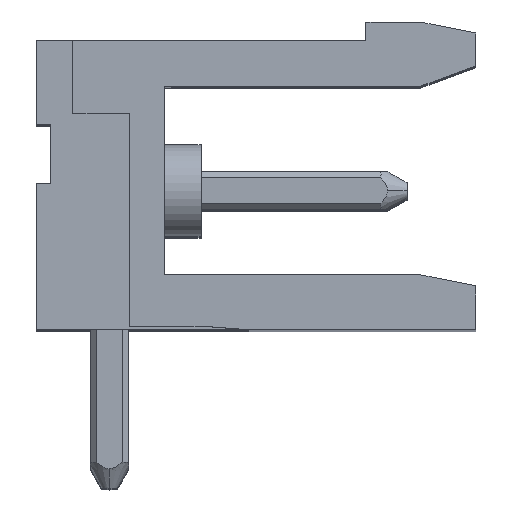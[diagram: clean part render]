
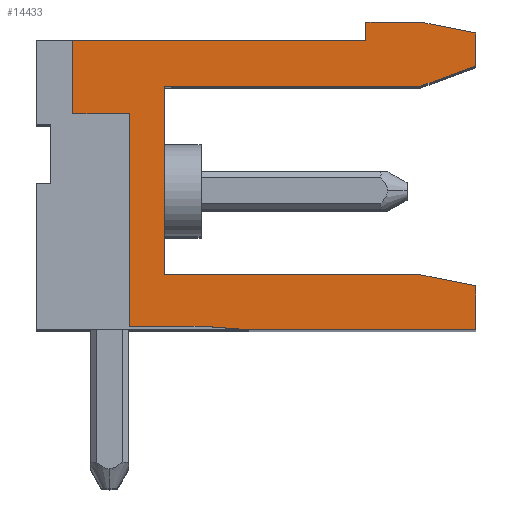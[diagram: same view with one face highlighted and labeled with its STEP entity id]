
A CAD part, top view. The second image highlights one B-rep face of the part: STEP entity #14433.
In plain terms, the highlighted planar face has unit normal (0, 0, 1).
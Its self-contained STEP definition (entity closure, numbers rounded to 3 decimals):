
#87 = VECTOR ( 'NONE', #5342, 1000. ) ;
#131 = ORIENTED_EDGE ( 'NONE', *, *, #7139, .F. ) ;
#302 = CARTESIAN_POINT ( 'NONE',  ( -1.5, 1.5, 0. ) ) ;
#337 = ORIENTED_EDGE ( 'NONE', *, *, #10374, .F. ) ;
#613 = DIRECTION ( 'NONE',  ( -1., 0., 0. ) ) ;
#1085 = DIRECTION ( 'NONE',  ( 0., 1., 0. ) ) ;
#1084 = CARTESIAN_POINT ( 'NONE',  ( -6.2, 0., 0. ) ) ;
#1420 = VERTEX_POINT ( 'NONE', #4482 ) ;
#1521 = CARTESIAN_POINT ( 'NONE',  ( -11.6, 6.65, 0. ) ) ;
#1895 = EDGE_CURVE ( 'NONE', #6703, #11509, #5510, .T. ) ;
#1926 = CARTESIAN_POINT ( 'NONE',  ( -1.5, 8.4, 0. ) ) ;
#1964 = VERTEX_POINT ( 'NONE', #5329 ) ;
#2021 = LINE ( 'NONE', #12351, #17301 ) ;
#2186 = VERTEX_POINT ( 'NONE', #6006 ) ;
#2264 = DIRECTION ( 'NONE',  ( 0., 1., 0. ) ) ;
#2310 = LINE ( 'NONE', #2895, #11597 ) ;
#2347 = CARTESIAN_POINT ( 'NONE',  ( -1.5, 1.5, 0. ) ) ;
#2644 = VERTEX_POINT ( 'NONE', #1926 ) ;
#2651 = VERTEX_POINT ( 'NONE', #1084 ) ;
#2760 = ORIENTED_EDGE ( 'NONE', *, *, #4595, .F. ) ;
#2821 = VERTEX_POINT ( 'NONE', #12449 ) ;
#2895 = CARTESIAN_POINT ( 'NONE',  ( -6.2, 0., 0. ) ) ;
#3126 = LINE ( 'NONE', #15205, #14352 ) ;
#3192 = EDGE_CURVE ( 'NONE', #4361, #5687, #9544, .T. ) ;
#3941 = CARTESIAN_POINT ( 'NONE',  ( -11., 0.1, 0. ) ) ;
#4241 = DIRECTION ( 'NONE',  ( -1., 0., 0. ) ) ;
#4262 = VECTOR ( 'NONE', #9789, 1000. ) ;
#4361 = VERTEX_POINT ( 'NONE', #5178 ) ;
#4482 = CARTESIAN_POINT ( 'NONE',  ( -8.5, 1.5, 0. ) ) ;
#4545 = PLANE ( 'NONE',  #11042 ) ;
#4595 = EDGE_CURVE ( 'NONE', #6703, #2186, #13392, .T. ) ;
#4904 = ORIENTED_EDGE ( 'NONE', *, *, #17384, .F. ) ;
#5178 = CARTESIAN_POINT ( 'NONE',  ( -11., 7.9, 0. ) ) ;
#5329 = CARTESIAN_POINT ( 'NONE',  ( -9.45, 5.9, 0. ) ) ;
#5342 = DIRECTION ( 'NONE',  ( 0., 1., 0. ) ) ;
#5510 = LINE ( 'NONE', #14801, #14573 ) ;
#5523 = CARTESIAN_POINT ( 'NONE',  ( -8.5, 6.65, 0. ) ) ;
#5687 = VERTEX_POINT ( 'NONE', #16800 ) ;
#5858 = EDGE_CURVE ( 'NONE', #11509, #2644, #12590, .T. ) ;
#5891 = CARTESIAN_POINT ( 'NONE',  ( 0., 8.1, 0. ) ) ;
#6006 = CARTESIAN_POINT ( 'NONE',  ( -1.5, 6.65, 0. ) ) ;
#6221 = CARTESIAN_POINT ( 'NONE',  ( -7.5, 0.1, 0. ) ) ;
#6448 = DIRECTION ( 'NONE',  ( 1., 0., 0. ) ) ;
#6464 = ORIENTED_EDGE ( 'NONE', *, *, #7354, .T. ) ;
#6475 = LINE ( 'NONE', #17196, #17646 ) ;
#6492 = DIRECTION ( 'NONE',  ( -0.981, 0.196, 0. ) ) ;
#6703 = VERTEX_POINT ( 'NONE', #17763 ) ;
#6966 = VECTOR ( 'NONE', #6448, 1000. ) ;
#7006 = CARTESIAN_POINT ( 'NONE',  ( 0., 7.2, 0. ) ) ;
#7083 = VERTEX_POINT ( 'NONE', #2347 ) ;
#7108 = DIRECTION ( 'NONE',  ( 0., -1., 0. ) ) ;
#7139 = EDGE_CURVE ( 'NONE', #1964, #14094, #2021, .T. ) ;
#7354 = EDGE_CURVE ( 'NONE', #13340, #5687, #10879, .T. ) ;
#7425 = VECTOR ( 'NONE', #6492, 1000. ) ;
#7530 = CARTESIAN_POINT ( 'NONE',  ( 0., 8.1, 0. ) ) ;
#7975 = EDGE_CURVE ( 'NONE', #7083, #17148, #16635, .T. ) ;
#7994 = VECTOR ( 'NONE', #4241, 1000. ) ;
#8222 = ORIENTED_EDGE ( 'NONE', *, *, #15173, .T. ) ;
#8407 = EDGE_CURVE ( 'NONE', #2186, #10918, #8424, .T. ) ;
#8424 = LINE ( 'NONE', #1521, #7994 ) ;
#8519 = DIRECTION ( 'NONE',  ( 0.981, -0.196, 0. ) ) ;
#8582 = CARTESIAN_POINT ( 'NONE',  ( -9.45, 0.1, 0. ) ) ;
#8606 = DIRECTION ( 'NONE',  ( -1., 0., 0. ) ) ;
#8952 = LINE ( 'NONE', #14355, #12644 ) ;
#9002 = DIRECTION ( 'NONE',  ( 1., 0., 0. ) ) ;
#9102 = CARTESIAN_POINT ( 'NONE',  ( -1.5, 8.4, 0. ) ) ;
#9214 = VECTOR ( 'NONE', #12757, 1000. ) ;
#9241 = ORIENTED_EDGE ( 'NONE', *, *, #5858, .T. ) ;
#9303 = FACE_OUTER_BOUND ( 'NONE', #10306, .T. ) ;
#9513 = CARTESIAN_POINT ( 'NONE',  ( -11., 5.9, 0. ) ) ;
#9544 = LINE ( 'NONE', #11874, #12572 ) ;
#9743 = LINE ( 'NONE', #14815, #6966 ) ;
#9789 = DIRECTION ( 'NONE',  ( 0., 1., 0. ) ) ;
#9805 = DIRECTION ( 'NONE',  ( -1., 0., 0. ) ) ;
#9973 = VECTOR ( 'NONE', #7108, 1000. ) ;
#10037 = CARTESIAN_POINT ( 'NONE',  ( -8.5, 0.1, 0. ) ) ;
#10306 = EDGE_LOOP ( 'NONE', ( #11830, #12825, #337, #11464, #8222, #12391, #16707, #4904, #14370, #2760, #15150, #9241, #12542, #6464, #13079, #14098, #131 ) ) ;
#10374 = EDGE_CURVE ( 'NONE', #2651, #14606, #2310, .T. ) ;
#10879 = LINE ( 'NONE', #11123, #9973 ) ;
#10918 = VERTEX_POINT ( 'NONE', #5523 ) ;
#11042 = AXIS2_PLACEMENT_3D ( 'NONE', #16928, #15452, #8606 ) ;
#11123 = CARTESIAN_POINT ( 'NONE',  ( -3., 7.9, 0. ) ) ;
#11464 = ORIENTED_EDGE ( 'NONE', *, *, #14630, .T. ) ;
#11501 = VECTOR ( 'NONE', #8519, 1000. ) ;
#11509 = VERTEX_POINT ( 'NONE', #7530 ) ;
#11597 = VECTOR ( 'NONE', #15388, 1000. ) ;
#11830 = ORIENTED_EDGE ( 'NONE', *, *, #16596, .F. ) ;
#11874 = CARTESIAN_POINT ( 'NONE',  ( -11.6, 7.9, 0. ) ) ;
#12351 = CARTESIAN_POINT ( 'NONE',  ( -11.6, 5.9, 0. ) ) ;
#12391 = ORIENTED_EDGE ( 'NONE', *, *, #7975, .F. ) ;
#12449 = CARTESIAN_POINT ( 'NONE',  ( -9.45, 0.1, 0. ) ) ;
#12542 = ORIENTED_EDGE ( 'NONE', *, *, #17480, .T. ) ;
#12572 = VECTOR ( 'NONE', #9002, 1000. ) ;
#12590 = LINE ( 'NONE', #9102, #7425 ) ;
#12618 = EDGE_CURVE ( 'NONE', #1420, #7083, #8952, .T. ) ;
#12644 = VECTOR ( 'NONE', #13032, 1000. ) ;
#12754 = VECTOR ( 'NONE', #2264, 1000. ) ;
#12757 = DIRECTION ( 'NONE',  ( 0., -1., 0. ) ) ;
#12774 = DIRECTION ( 'NONE',  ( -0.939, -0.344, 0. ) ) ;
#12825 = ORIENTED_EDGE ( 'NONE', *, *, #12962, .F. ) ;
#12962 = EDGE_CURVE ( 'NONE', #14606, #2821, #3126, .T. ) ;
#13032 = DIRECTION ( 'NONE',  ( 1., 0., 0. ) ) ;
#13079 = ORIENTED_EDGE ( 'NONE', *, *, #3192, .F. ) ;
#13340 = VERTEX_POINT ( 'NONE', #16529 ) ;
#13392 = LINE ( 'NONE', #7006, #16637 ) ;
#13864 = CARTESIAN_POINT ( 'NONE',  ( 0., 1.2, 0. ) ) ;
#14094 = VERTEX_POINT ( 'NONE', #9513 ) ;
#14098 = ORIENTED_EDGE ( 'NONE', *, *, #14858, .F. ) ;
#14352 = VECTOR ( 'NONE', #9805, 1000. ) ;
#14355 = CARTESIAN_POINT ( 'NONE',  ( -11.6, 1.5, 0. ) ) ;
#14370 = ORIENTED_EDGE ( 'NONE', *, *, #8407, .F. ) ;
#14433 = ADVANCED_FACE ( 'NONE', ( #9303 ), #4545, .F. ) ;
#14573 = VECTOR ( 'NONE', #1085, 1000. ) ;
#14606 = VERTEX_POINT ( 'NONE', #6221 ) ;
#14630 = EDGE_CURVE ( 'NONE', #2651, #16098, #9743, .T. ) ;
#14801 = CARTESIAN_POINT ( 'NONE',  ( 0., 8.1, 0. ) ) ;
#14815 = CARTESIAN_POINT ( 'NONE',  ( 0., 0., 0. ) ) ;
#14858 = EDGE_CURVE ( 'NONE', #14094, #4361, #17277, .T. ) ;
#15150 = ORIENTED_EDGE ( 'NONE', *, *, #1895, .T. ) ;
#15173 = EDGE_CURVE ( 'NONE', #16098, #17148, #17473, .T. ) ;
#15205 = CARTESIAN_POINT ( 'NONE',  ( -11.6, 0.1, 0. ) ) ;
#15296 = LINE ( 'NONE', #8582, #4262 ) ;
#15388 = DIRECTION ( 'NONE',  ( -0.997, 0.077, 0. ) ) ;
#15452 = DIRECTION ( 'NONE',  ( 0., 0., -1. ) ) ;
#15973 = CARTESIAN_POINT ( 'NONE',  ( 0., 0., 0. ) ) ;
#16098 = VERTEX_POINT ( 'NONE', #15973 ) ;
#16529 = CARTESIAN_POINT ( 'NONE',  ( -3., 8.4, 0. ) ) ;
#16582 = LINE ( 'NONE', #10037, #9214 ) ;
#16596 = EDGE_CURVE ( 'NONE', #2821, #1964, #15296, .T. ) ;
#16635 = LINE ( 'NONE', #302, #11501 ) ;
#16637 = VECTOR ( 'NONE', #12774, 1000. ) ;
#16707 = ORIENTED_EDGE ( 'NONE', *, *, #12618, .F. ) ;
#16800 = CARTESIAN_POINT ( 'NONE',  ( -3., 7.9, 0. ) ) ;
#16928 = CARTESIAN_POINT ( 'NONE',  ( -11.6, 0.1, 0. ) ) ;
#17148 = VERTEX_POINT ( 'NONE', #13864 ) ;
#17196 = CARTESIAN_POINT ( 'NONE',  ( -3., 8.4, 0. ) ) ;
#17277 = LINE ( 'NONE', #3941, #87 ) ;
#17301 = VECTOR ( 'NONE', #17686, 1000. ) ;
#17384 = EDGE_CURVE ( 'NONE', #10918, #1420, #16582, .T. ) ;
#17473 = LINE ( 'NONE', #5891, #12754 ) ;
#17480 = EDGE_CURVE ( 'NONE', #2644, #13340, #6475, .T. ) ;
#17646 = VECTOR ( 'NONE', #613, 1000. ) ;
#17686 = DIRECTION ( 'NONE',  ( -1., 0., 0. ) ) ;
#17763 = CARTESIAN_POINT ( 'NONE',  ( 0., 7.2, 0. ) ) ;
